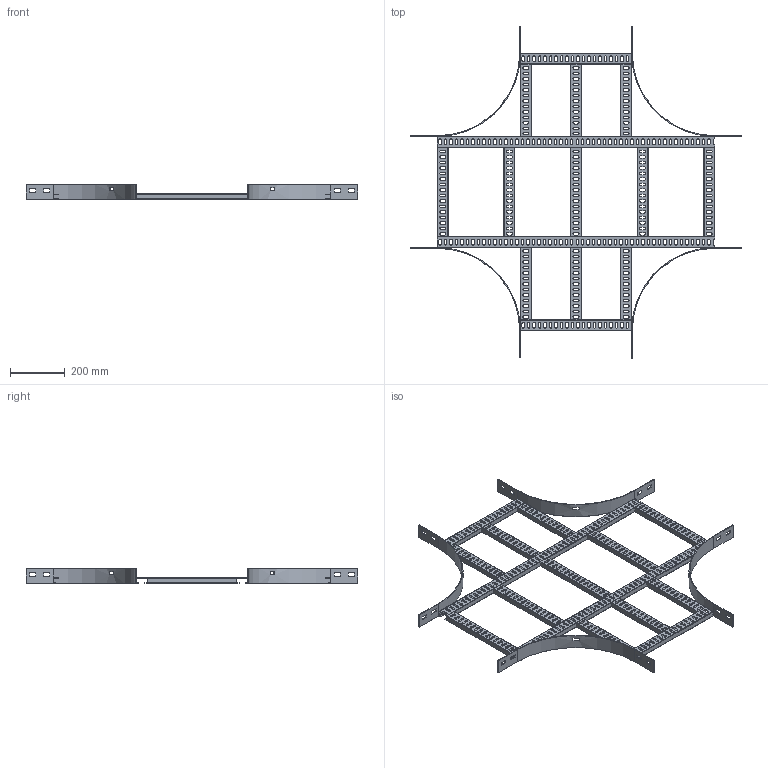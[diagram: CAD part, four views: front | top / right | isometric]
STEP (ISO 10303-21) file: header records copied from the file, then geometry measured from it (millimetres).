
FILE_DESCRIPTION(/* description */ ('','CAx-IF Rec.Pracs.---Representation and Presentation of Product Manufacturing Information (PMI)---4.0---2014-10-13'),/* implementation_level */ '2;1');
FILE_NAME(/* name */ 'Eurostrut_ECO60-400-300_Crossover for Cable Ladder ECL.step',/* time_stamp */ '2026-09-03T13:19:41+02:00',/* author */ (''),/* organization */ (''),/* preprocessor_version */ 'ST-DEVELOPER v20.1',/* originating_system */ 'Autodesk Revit 2027 27.2.0.39',/* authorisation */ '');
FILE_SCHEMA (('AP242_MANAGED_MODEL_BASED_3D_ENGINEERING_MIM_LF { 1 0 10303 442 2 1 4 }'));
Length unit declared in the file: millimetre
Products named in the file (10): TopLevelAssembly; Sweep; Sweep_1; Sweep_2; Sweep_3; Eurostrut_Cable Ladder_Rung_With slots; Eurostrut_Cable Ladder_Rung_With slots_1; Eurostrut_Cable Ladder_Rung Array Straight_Slotted; Eurostrut_Cable Ladder_Rung Array Straight_Slotted_1; Eurostrut_Cable Ladder_Accessory End_54-94-142
Assembly tree (19 placements, depth 2):
  TopLevelAssembly
    Sweep
    Sweep_1
    Eurostrut_Cable Ladder_Rung_With slots  x2
    Eurostrut_Cable Ladder_Rung_With slots_1  x2
    Sweep_2
    Sweep_3
    Eurostrut_Cable Ladder_Rung Array Straight_Slotted
    Eurostrut_Cable Ladder_Rung Array Straight_Slotted_1  x2
    Eurostrut_Cable Ladder_Accessory End_54-94-142  x8
Bounding box: 1211 x 1211 x 54 mm (x, y, z)
Volume: 1161015.6 mm3; surface area: 1337987.1 mm2
Topology: 27 solids, 27 shells, 1622 faces, 4704 edges, 3136 vertices
Faces by surface type: plane 954, bspline 600, cylinder 68
Entity records: 44626 total; most frequent: CARTESIAN_POINT 17559, ORIENTED_EDGE 5784, DIRECTION 5050, EDGE_CURVE 2892, LINE 2020, VECTOR 2020, VERTEX_POINT 1928, AXIS2_PLACEMENT_3D 1515
